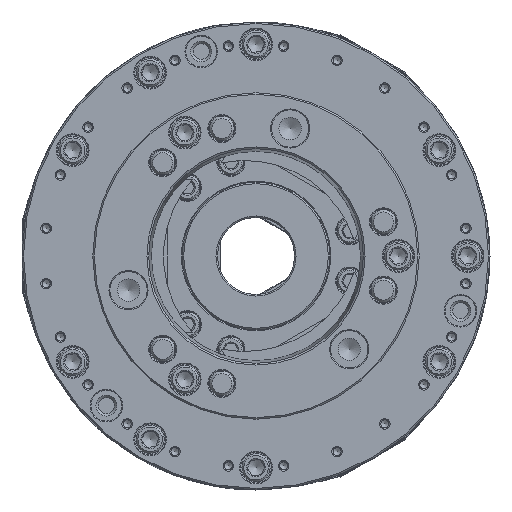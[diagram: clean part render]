
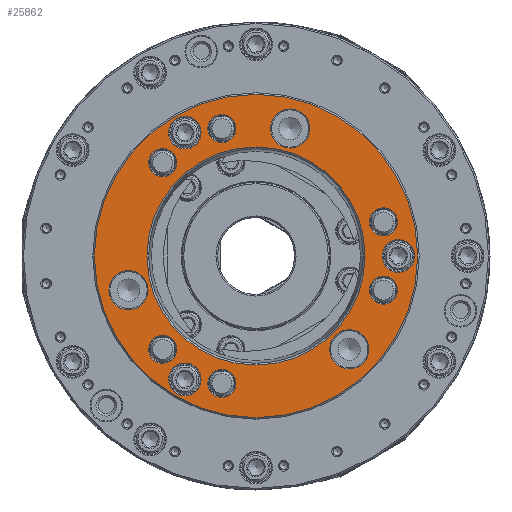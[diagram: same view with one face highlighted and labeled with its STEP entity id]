
A CAD part, left-side view. The second image highlights one B-rep face of the part: STEP entity #25862.
In plain terms, the highlighted planar face has unit normal (-1, 0, 0).
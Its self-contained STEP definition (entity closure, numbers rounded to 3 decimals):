
#3962 = DIRECTION ( 'NONE',  ( -1., 0., 0. ) ) ;
#4345 = VERTEX_POINT ( 'NONE', #98465 ) ;
#4465 = CIRCLE ( 'NONE', #111187, 9.1 ) ;
#4736 = CARTESIAN_POINT ( 'NONE',  ( -125., 0., 105. ) ) ;
#4915 = DIRECTION ( 'NONE',  ( -1., 0., 0. ) ) ;
#6193 = CIRCLE ( 'NONE', #91073, 10.6 ) ;
#6514 = DIRECTION ( 'NONE',  ( -1., 0., 0. ) ) ;
#6999 = EDGE_LOOP ( 'NONE', ( #62184 ) ) ;
#7956 = EDGE_LOOP ( 'NONE', ( #123739 ) ) ;
#11347 = EDGE_LOOP ( 'NONE', ( #13244 ) ) ;
#11655 = CIRCLE ( 'NONE', #79502, 105. ) ;
#12522 = DIRECTION ( 'NONE',  ( -1., 0., 0. ) ) ;
#12724 = DIRECTION ( 'NONE',  ( -1., 0., 0. ) ) ;
#12951 = VERTEX_POINT ( 'NONE', #106283 ) ;
#13046 = EDGE_LOOP ( 'NONE', ( #78895 ) ) ;
#13244 = ORIENTED_EDGE ( 'NONE', *, *, #61896, .F. ) ;
#13801 = EDGE_LOOP ( 'NONE', ( #132600 ) ) ;
#15414 = EDGE_CURVE ( 'NONE', #84280, #84280, #67956, .T. ) ;
#17710 = EDGE_CURVE ( 'NONE', #107043, #107043, #135893, .T. ) ;
#18152 = CIRCLE ( 'NONE', #129776, 9.1 ) ;
#18542 = CARTESIAN_POINT ( 'NONE',  ( -125., 82.804, -34.892 ) ) ;
#21468 = FACE_BOUND ( 'NONE', #144030, .T. ) ;
#21471 = EDGE_CURVE ( 'NONE', #12951, #12951, #4465, .T. ) ;
#21557 = VERTEX_POINT ( 'NONE', #112641 ) ;
#21877 = ORIENTED_EDGE ( 'NONE', *, *, #99467, .F. ) ;
#22228 = FACE_BOUND ( 'NONE', #11347, .T. ) ;
#24953 = EDGE_CURVE ( 'NONE', #28090, #28090, #18152, .T. ) ;
#25034 = EDGE_LOOP ( 'NONE', ( #82319 ) ) ;
#25215 = EDGE_LOOP ( 'NONE', ( #39583 ) ) ;
#25862 = ADVANCED_FACE ( 'NONE', ( #58639, #93556, #21468, #148388, #67804, #79901, #114065, #126283, #139967, #22228, #45748, #92062, #34415, #80671 ), #140738, .F. ) ;
#26738 = CARTESIAN_POINT ( 'NONE',  ( -125., 105., 0. ) ) ;
#28090 = VERTEX_POINT ( 'NONE', #38748 ) ;
#31224 = EDGE_LOOP ( 'NONE', ( #21877 ) ) ;
#33120 = AXIS2_PLACEMENT_3D ( 'NONE', #46710, #12522, #93739 ) ;
#33200 = CARTESIAN_POINT ( 'NONE',  ( -125., -22.187, 82.804 ) ) ;
#33714 = CARTESIAN_POINT ( 'NONE',  ( -125., 60.617, 69.717 ) ) ;
#34415 = FACE_OUTER_BOUND ( 'NONE', #13801, .T. ) ;
#34887 = CIRCLE ( 'NONE', #66274, 9.1 ) ;
#36717 = DIRECTION ( 'NONE',  ( 0., 0., 1. ) ) ;
#37466 = CARTESIAN_POINT ( 'NONE',  ( -125., -60.617, -60.617 ) ) ;
#38569 = CARTESIAN_POINT ( 'NONE',  ( -125., 0., 0. ) ) ;
#38748 = CARTESIAN_POINT ( 'NONE',  ( -125., 60.617, -51.517 ) ) ;
#39261 = DIRECTION ( 'NONE',  ( 0., 0., 1. ) ) ;
#39583 = ORIENTED_EDGE ( 'NONE', *, *, #24953, .F. ) ;
#45748 = FACE_BOUND ( 'NONE', #6999, .T. ) ;
#46459 = CIRCLE ( 'NONE', #97379, 12.705 ) ;
#46710 = CARTESIAN_POINT ( 'NONE',  ( -125., 22.187, 82.804 ) ) ;
#47512 = CARTESIAN_POINT ( 'NONE',  ( -125., 60.617, 60.617 ) ) ;
#49767 = DIRECTION ( 'NONE',  ( -1., 0., 0. ) ) ;
#51845 = VERTEX_POINT ( 'NONE', #98112 ) ;
#54034 = AXIS2_PLACEMENT_3D ( 'NONE', #38569, #95504, #84856 ) ;
#55326 = DIRECTION ( 'NONE',  ( 0., 0., 1. ) ) ;
#55759 = DIRECTION ( 'NONE',  ( 0., 0., 1. ) ) ;
#55838 = CIRCLE ( 'NONE', #109116, 12.705 ) ;
#58289 = DIRECTION ( 'NONE',  ( 0., 0., 1. ) ) ;
#58639 = FACE_BOUND ( 'NONE', #79157, .T. ) ;
#60125 = DIRECTION ( 'NONE',  ( 1., 0., 0. ) ) ;
#60375 = DIRECTION ( 'NONE',  ( 0., 0., 1. ) ) ;
#60958 = VERTEX_POINT ( 'NONE', #4736 ) ;
#61896 = EDGE_CURVE ( 'NONE', #4345, #4345, #34887, .T. ) ;
#62184 = ORIENTED_EDGE ( 'NONE', *, *, #77527, .F. ) ;
#62484 = ORIENTED_EDGE ( 'NONE', *, *, #95401, .T. ) ;
#63364 = CARTESIAN_POINT ( 'NONE',  ( -125., 46.25, -80.107 ) ) ;
#65350 = EDGE_CURVE ( 'NONE', #100708, #100708, #6193, .T. ) ;
#66274 = AXIS2_PLACEMENT_3D ( 'NONE', #149479, #125861, #111403 ) ;
#66569 = CARTESIAN_POINT ( 'NONE',  ( -125., 46.25, 90.707 ) ) ;
#67804 = FACE_BOUND ( 'NONE', #128120, .T. ) ;
#67956 = CIRCLE ( 'NONE', #121374, 10.6 ) ;
#68076 = DIRECTION ( 'NONE',  ( 1., 0., 0. ) ) ;
#70360 = AXIS2_PLACEMENT_3D ( 'NONE', #145040, #145807, #123680 ) ;
#71440 = EDGE_CURVE ( 'NONE', #122764, #122764, #109821, .T. ) ;
#71605 = CIRCLE ( 'NONE', #76461, 9.1 ) ;
#72317 = DIRECTION ( 'NONE',  ( 0., 0., -1. ) ) ;
#76461 = AXIS2_PLACEMENT_3D ( 'NONE', #81827, #115982, #55326 ) ;
#77527 = EDGE_CURVE ( 'NONE', #150155, #150155, #118227, .T. ) ;
#78895 = ORIENTED_EDGE ( 'NONE', *, *, #17710, .F. ) ;
#79157 = EDGE_LOOP ( 'NONE', ( #62484 ) ) ;
#79502 = AXIS2_PLACEMENT_3D ( 'NONE', #134191, #6514, #39261 ) ;
#79901 = FACE_BOUND ( 'NONE', #31224, .T. ) ;
#80671 = FACE_BOUND ( 'NONE', #13046, .T. ) ;
#81569 = DIRECTION ( 'NONE',  ( -1., 0., 0. ) ) ;
#81827 = CARTESIAN_POINT ( 'NONE',  ( -125., -82.804, -22.187 ) ) ;
#82319 = ORIENTED_EDGE ( 'NONE', *, *, #65350, .F. ) ;
#84280 = VERTEX_POINT ( 'NONE', #137035 ) ;
#84654 = VERTEX_POINT ( 'NONE', #131061 ) ;
#84856 = DIRECTION ( 'NONE',  ( 0., 0., 1. ) ) ;
#87352 = ORIENTED_EDGE ( 'NONE', *, *, #107197, .T. ) ;
#90074 = CARTESIAN_POINT ( 'NONE',  ( -125., 0., 70.861 ) ) ;
#91073 = AXIS2_PLACEMENT_3D ( 'NONE', #117143, #3962, #36717 ) ;
#91424 = DIRECTION ( 'NONE',  ( -1., 0., 0. ) ) ;
#92062 = FACE_BOUND ( 'NONE', #132786, .T. ) ;
#92253 = DIRECTION ( 'NONE',  ( 0., 0., 1. ) ) ;
#92488 = EDGE_CURVE ( 'NONE', #130289, #130289, #55838, .T. ) ;
#93556 = FACE_BOUND ( 'NONE', #125314, .T. ) ;
#93739 = DIRECTION ( 'NONE',  ( 0., 0., 1. ) ) ;
#95401 = EDGE_CURVE ( 'NONE', #84654, #84654, #46459, .T. ) ;
#95504 = DIRECTION ( 'NONE',  ( -1., 0., 0. ) ) ;
#97379 = AXIS2_PLACEMENT_3D ( 'NONE', #33200, #114353, #101466 ) ;
#98112 = CARTESIAN_POINT ( 'NONE',  ( -125., -82.804, -13.087 ) ) ;
#98465 = CARTESIAN_POINT ( 'NONE',  ( -125., -82.804, 31.287 ) ) ;
#98495 = CIRCLE ( 'NONE', #33120, 9.1 ) ;
#99467 = EDGE_CURVE ( 'NONE', #21557, #21557, #98495, .T. ) ;
#100708 = VERTEX_POINT ( 'NONE', #66569 ) ;
#101466 = DIRECTION ( 'NONE',  ( 0., 0., -1. ) ) ;
#105908 = DIRECTION ( 'NONE',  ( 0., 0., 1. ) ) ;
#106283 = CARTESIAN_POINT ( 'NONE',  ( -125., 22.187, -73.704 ) ) ;
#106369 = ORIENTED_EDGE ( 'NONE', *, *, #71440, .F. ) ;
#107043 = VERTEX_POINT ( 'NONE', #33714 ) ;
#107197 = EDGE_CURVE ( 'NONE', #122588, #122588, #111498, .T. ) ;
#109116 = AXIS2_PLACEMENT_3D ( 'NONE', #37466, #68076, #72317 ) ;
#109659 = CARTESIAN_POINT ( 'NONE',  ( -125., -60.617, -73.322 ) ) ;
#109821 = CIRCLE ( 'NONE', #54034, 70.861 ) ;
#111187 = AXIS2_PLACEMENT_3D ( 'NONE', #149267, #91424, #55759 ) ;
#111403 = DIRECTION ( 'NONE',  ( 0., 0., 1. ) ) ;
#111498 = CIRCLE ( 'NONE', #70360, 12.705 ) ;
#111911 = ORIENTED_EDGE ( 'NONE', *, *, #21471, .F. ) ;
#112641 = CARTESIAN_POINT ( 'NONE',  ( -125., 22.187, 91.904 ) ) ;
#114065 = FACE_BOUND ( 'NONE', #7956, .T. ) ;
#114353 = DIRECTION ( 'NONE',  ( 1., 0., 0. ) ) ;
#115075 = CARTESIAN_POINT ( 'NONE',  ( -125., -92.5, 10.6 ) ) ;
#115982 = DIRECTION ( 'NONE',  ( -1., 0., 0. ) ) ;
#117143 = CARTESIAN_POINT ( 'NONE',  ( -125., 46.25, 80.107 ) ) ;
#117481 = CARTESIAN_POINT ( 'NONE',  ( -125., 60.617, -60.617 ) ) ;
#117838 = DIRECTION ( 'NONE',  ( 0., 0., -1. ) ) ;
#118227 = CIRCLE ( 'NONE', #137728, 10.6 ) ;
#119716 = AXIS2_PLACEMENT_3D ( 'NONE', #26738, #60125, #117838 ) ;
#121374 = AXIS2_PLACEMENT_3D ( 'NONE', #63364, #4915, #60375 ) ;
#122197 = EDGE_CURVE ( 'NONE', #60958, #60958, #11655, .T. ) ;
#122588 = VERTEX_POINT ( 'NONE', #18542 ) ;
#122764 = VERTEX_POINT ( 'NONE', #90074 ) ;
#123680 = DIRECTION ( 'NONE',  ( 0., 0., -1. ) ) ;
#123739 = ORIENTED_EDGE ( 'NONE', *, *, #15414, .F. ) ;
#125314 = EDGE_LOOP ( 'NONE', ( #134328 ) ) ;
#125861 = DIRECTION ( 'NONE',  ( -1., 0., 0. ) ) ;
#126283 = FACE_BOUND ( 'NONE', #25034, .T. ) ;
#126518 = EDGE_CURVE ( 'NONE', #51845, #51845, #71605, .T. ) ;
#128120 = EDGE_LOOP ( 'NONE', ( #111911 ) ) ;
#129776 = AXIS2_PLACEMENT_3D ( 'NONE', #117481, #12724, #58289 ) ;
#130289 = VERTEX_POINT ( 'NONE', #109659 ) ;
#131061 = CARTESIAN_POINT ( 'NONE',  ( -125., -22.187, 70.099 ) ) ;
#132600 = ORIENTED_EDGE ( 'NONE', *, *, #122197, .T. ) ;
#132786 = EDGE_LOOP ( 'NONE', ( #106369 ) ) ;
#134191 = CARTESIAN_POINT ( 'NONE',  ( -125., 0., 0. ) ) ;
#134328 = ORIENTED_EDGE ( 'NONE', *, *, #92488, .T. ) ;
#135893 = CIRCLE ( 'NONE', #143291, 9.1 ) ;
#137035 = CARTESIAN_POINT ( 'NONE',  ( -125., 46.25, -69.507 ) ) ;
#137728 = AXIS2_PLACEMENT_3D ( 'NONE', #149337, #81569, #92253 ) ;
#139967 = FACE_BOUND ( 'NONE', #144598, .T. ) ;
#140738 = PLANE ( 'NONE',  #119716 ) ;
#141957 = ORIENTED_EDGE ( 'NONE', *, *, #126518, .F. ) ;
#143291 = AXIS2_PLACEMENT_3D ( 'NONE', #47512, #49767, #105908 ) ;
#144030 = EDGE_LOOP ( 'NONE', ( #87352 ) ) ;
#144598 = EDGE_LOOP ( 'NONE', ( #141957 ) ) ;
#145040 = CARTESIAN_POINT ( 'NONE',  ( -125., 82.804, -22.187 ) ) ;
#145807 = DIRECTION ( 'NONE',  ( 1., 0., 0. ) ) ;
#148388 = FACE_BOUND ( 'NONE', #25215, .T. ) ;
#149267 = CARTESIAN_POINT ( 'NONE',  ( -125., 22.187, -82.804 ) ) ;
#149337 = CARTESIAN_POINT ( 'NONE',  ( -125., -92.5, 0. ) ) ;
#149479 = CARTESIAN_POINT ( 'NONE',  ( -125., -82.804, 22.187 ) ) ;
#150155 = VERTEX_POINT ( 'NONE', #115075 ) ;
